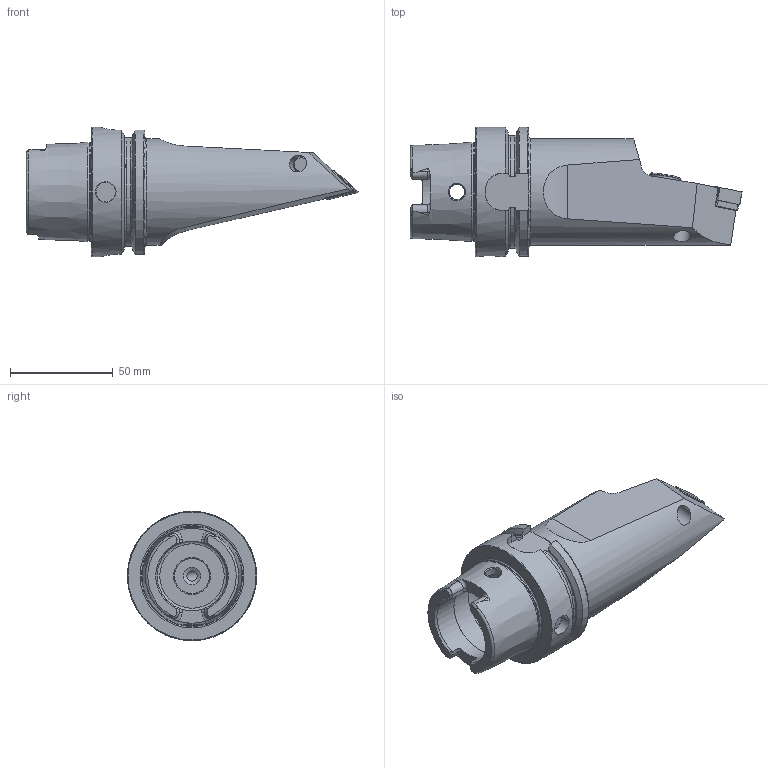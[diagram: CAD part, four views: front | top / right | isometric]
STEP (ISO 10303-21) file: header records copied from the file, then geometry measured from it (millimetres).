
FILE_DESCRIPTION (( 'STEP AP214' ), '1' );
FILE_NAME ('HA6.PDF.NXA.130-HP.STEP', '2019-12-10T15:15:18', ( '' ), ( '' ), 'SwSTEP 2.0', 'SolidWorks 2017', '' );
FILE_SCHEMA (( 'AUTOMOTIVE_DESIGN' ));
Length unit declared in the file: millimetre
Products named in the file (13): WCD-ER4.101.017_A; WDF-ER2.101.003_A; ISO 8752 2x8; HA6-PDF.NXA.130-HP_A; HA6.PDF.NXA.130-HP; CHP-ER1.015.006; CHP-ER1.008.014_A; DNMG150604; DIN 3771 - 13x1; DIN 7991 - M5x15; WCD-ER1.101.000; CHP-ER1.015.006_A; WDF-ER3.101.000_A
Assembly tree (12 placements, depth 3):
  HA6.PDF.NXA.130-HP
    HA6-PDF.NXA.130-HP_A
    DNMG150604
    WDF-ER3.101.000_A
    WCD-ER4.101.017_A
    WCD-ER1.101.000
    WDF-ER2.101.003_A
    ISO 8752 2x8
    CHP-ER1.008.014_A
    CHP-ER1.015.006
      CHP-ER1.015.006_A
      DIN 3771 - 13x1
      DIN 7991 - M5x15
Bounding box: 161.91 x 63 x 63 mm (x, y, z)
Volume: 203115.9 mm3; surface area: 41264.3 mm2
Topology: 11 solids, 11 shells, 355 faces, 884 edges, 549 vertices
Faces by surface type: plane 155, cylinder 83, cone 71, torus 32, bspline 14
Full cylindrical faces by diameter (mm): 2 x1, 2.5 x1, 3 x1, 3.55 x1, 4.2 x3, 4.7 x1, 5 x3, 5.16 x1, 5.2 x1, 5.5 x1, 6.4 x2, 7 x2, 7.5 x2, 7.9 x2, 8 x2, 8.4 x2, 10 x2, 13.4 x1, 15 x4, 17 x1, 19 x1, 34 x2, 40 x1, 47.941 x1, 52 x1, 63 x1
Entity records: 12346 total; most frequent: CARTESIAN_POINT 4155, DIRECTION 1531, ORIENTED_EDGE 1506, EDGE_CURVE 753, AXIS2_PLACEMENT_3D 609, VERTEX_POINT 521, EDGE_LOOP 476, FACE_OUTER_BOUND 411
